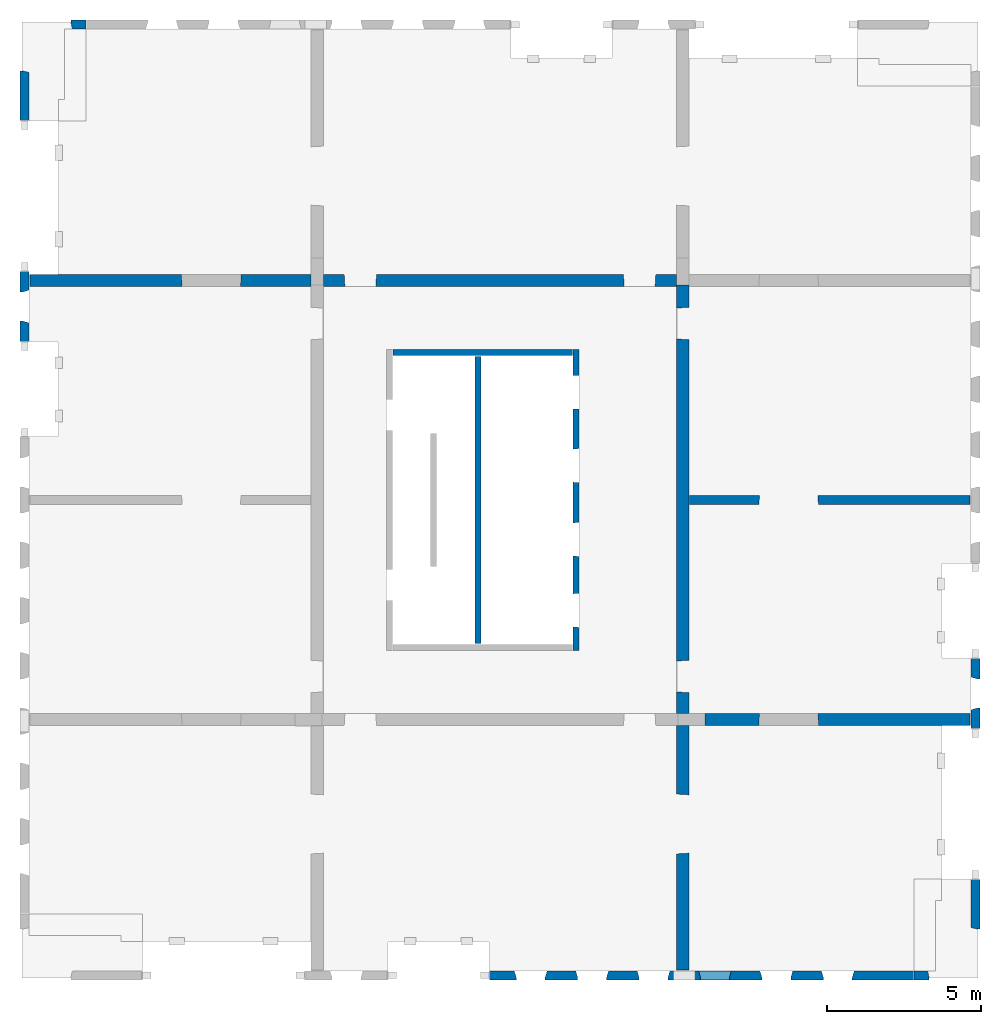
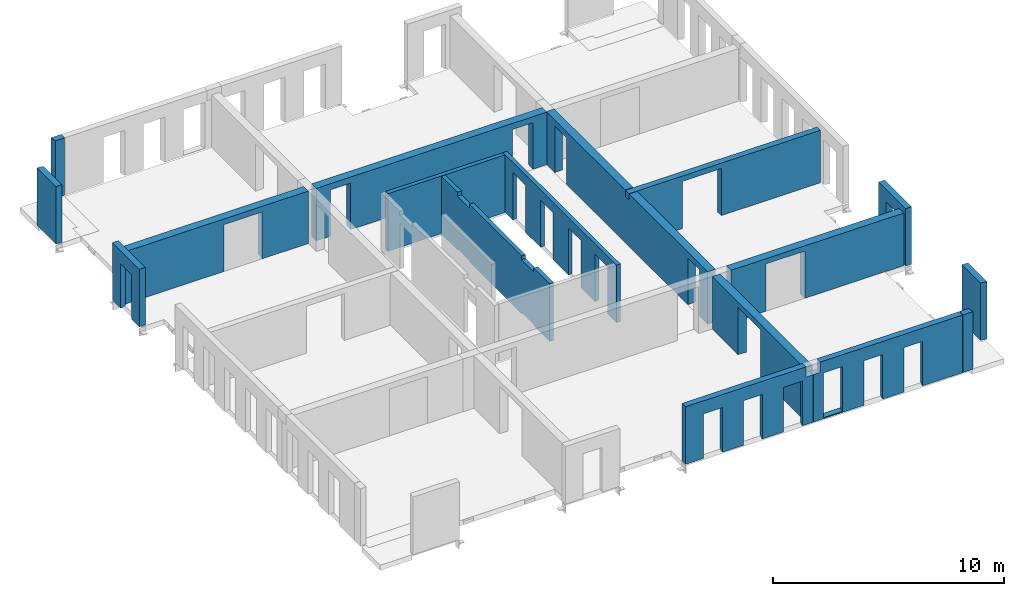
# One storey, part 3 of 4: 17 walls, 36 openings.
"""IFC2X3 building model written with IfcOpenShell, lengths in millimetres."""

from ifc_helpers import new_model, entity, si_unit, converted_unit, derived_unit, direction, frame, frame_2d, origin, origin_2d_with_axis, place, context, subcontext, project, spatial, rectangle, extrude, faceted_brep, material, layer, layer_set, layer_usage, type_object, element, save


model = new_model("IFC2X3")

# Units and contexts
model_context = context("Model", 3, precision=0.01, world=origin(), true_north=direction((6.12303176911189e-17, 1.0)))
body_context = subcontext(model_context, "Body", "Model", "MODEL_VIEW")
ifc_project = project(units=[si_unit("LENGTHUNIT", "METRE", prefix="MILLI"), si_unit("AREAUNIT", "SQUARE_METRE"), si_unit("VOLUMEUNIT", "CUBIC_METRE"), converted_unit("PLANEANGLEUNIT", "DEGREE", entity("IfcRatioMeasure", 0.0174532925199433), si_unit("PLANEANGLEUNIT", "RADIAN"), dimensions=[0, 0, 0, 0, 0, 0, 0]), si_unit("MASSUNIT", "GRAM", prefix="KILO"), derived_unit("MASSDENSITYUNIT", [(si_unit("MASSUNIT", "GRAM", prefix="KILO"), 1), (si_unit("LENGTHUNIT", "METRE"), -3)]), si_unit("TIMEUNIT", "SECOND"), si_unit("FREQUENCYUNIT", "HERTZ"), si_unit("THERMODYNAMICTEMPERATUREUNIT", "DEGREE_CELSIUS"), derived_unit("THERMALTRANSMITTANCEUNIT", [(si_unit("MASSUNIT", "GRAM", prefix="KILO"), 1), (si_unit("THERMODYNAMICTEMPERATUREUNIT", "KELVIN"), -1), (si_unit("TIMEUNIT", "SECOND"), -3)]), derived_unit("VOLUMETRICFLOWRATEUNIT", [(si_unit("LENGTHUNIT", "METRE"), 3), (si_unit("TIMEUNIT", "SECOND"), -1)]), si_unit("ELECTRICCURRENTUNIT", "AMPERE"), si_unit("ELECTRICVOLTAGEUNIT", "VOLT"), si_unit("POWERUNIT", "WATT"), si_unit("FORCEUNIT", "NEWTON", prefix="KILO"), si_unit("ILLUMINANCEUNIT", "LUX"), si_unit("LUMINOUSFLUXUNIT", "LUMEN"), si_unit("LUMINOUSINTENSITYUNIT", "CANDELA"), derived_unit("USERDEFINED", [(si_unit("MASSUNIT", "GRAM", prefix="KILO"), -1), (si_unit("LENGTHUNIT", "METRE"), -2), (si_unit("TIMEUNIT", "SECOND"), 3), (si_unit("LUMINOUSFLUXUNIT", "LUMEN"), 1)]), derived_unit("LINEARVELOCITYUNIT", [(si_unit("LENGTHUNIT", "METRE"), 1), (si_unit("TIMEUNIT", "SECOND"), -1)]), si_unit("PRESSUREUNIT", "PASCAL"), derived_unit("USERDEFINED", [(si_unit("LENGTHUNIT", "METRE"), -2), (si_unit("MASSUNIT", "GRAM", prefix="KILO"), 1), (si_unit("TIMEUNIT", "SECOND"), -2)])], contexts=[model_context])

# Site, building, storey
site_placement = place(None, origin())
site = spatial("IfcSite", under=ifc_project, at=site_placement, Name="Default", CompositionType="ELEMENT")
building_placement = place(site_placement, origin())
building = spatial("IfcBuilding", under=site, at=building_placement, Name="niet gebruiken", CompositionType="ELEMENT")
storey_placement = place(building_placement, frame((0.0, 0.0, 97560.0)))
storey = spatial("IfcBuildingStorey", under=building, at=storey_placement, Name="31 eenendertigste verdieping", CompositionType="ELEMENT", Elevation=97560.0000000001)

# Wall, openings
ifc_material = material(Name="NLRS_f2_beton prefab")
ifc_layer_1 = layer(ifc_material, 200.0)
ifc_layer_set_1 = layer_set([ifc_layer_1], Name="Basic Wall:NLRS_22.21_WA_beton prefab d=200_gen")
ifc_layer_usage_1 = layer_usage(ifc_layer_set_1, "AXIS2", "NEGATIVE", 100.0)
wall_type_1 = type_object("IfcWallType", Name="Basic Wall:NLRS_22.21_WA_beton prefab d=200_gen", PredefinedType="STANDARD", material=ifc_layer_set_1)
wall_1_placement = place(storey_placement, frame((144230.0, 22400.0, -50.0), z_axis=(0.0, 0.0, 1.0), x_axis=(0.0, -1.0, 0.0)))
wall_1 = element("IfcWallStandardCase", 1, at=wall_1_placement, inside=storey, type_object=wall_type_1, material=ifc_layer_usage_1, Name="Basic Wall:NLRS_22.21_WA_beton prefab d=200_gen", ObjectType="Basic Wall:NLRS_22.21_WA_beton prefab d=200_gen", context=body_context, shape_type="SweptSolid", body=[
    extrude(rectangle(XDim=9800.0, YDim=199.999999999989, at=frame_2d((4900.0, -3.69482222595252e-13), x_axis=(-1.0, 0.0))), origin(), (0.0, 0.0, 1.0), 3040.0),
])
opening_1_placement = place(wall_1_placement, frame((9047.0, -100.0, 0.0)))
element("IfcOpeningElement", 2, at=opening_1_placement, cuts=wall_1, Name="Basic Wall:NLRS_22.21_WA_beton prefab d=200_gen", ObjectType="Opening", context=body_context, shape_type="Brep", body=[
    faceted_brep([(-1104.0, 200.0, 2502.0), (-1104.0, 200.0, 0.0), (-1092.0, 0.0, 0.0), (-1092.0, 0.0, 2490.0), (0.0, 200.0, 0.0), (-12.0, 0.0, 0.0), (-12.0, 0.0, 2490.0), (0.0, 200.0, 2502.0)], [[[0, 1, 2, 3]], [[1, 4, 5, 2]], [[6, 3, 2, 5]], [[7, 4, 1, 0]], [[7, 0, 3, 6]], [[4, 7, 6, 5]]]),
])
opening_2_placement = place(wall_1_placement, frame((6737.0, -100.0, 0.0)))
element("IfcOpeningElement", 3, at=opening_2_placement, cuts=wall_1, Name="Basic Wall:NLRS_22.21_WA_beton prefab d=200_gen", ObjectType="Opening", context=body_context, shape_type="Brep", body=[
    faceted_brep([(-1104.0, 200.0, 2502.0), (-1104.0, 200.0, 0.0), (-1092.0, 0.0, 0.0), (-1092.0, 0.0, 2490.0), (0.0, 200.0, 0.0), (-12.0, 0.0, 0.0), (-12.0, 0.0, 2490.0), (0.0, 200.0, 2502.0)], [[[0, 1, 2, 3]], [[1, 4, 5, 2]], [[6, 3, 2, 5]], [[7, 4, 1, 0]], [[7, 0, 3, 6]], [[4, 7, 6, 5]]]),
])
opening_3_placement = place(wall_1_placement, frame((4332.0, -100.0, 0.0)))
element("IfcOpeningElement", 4, at=opening_3_placement, cuts=wall_1, Name="Basic Wall:NLRS_22.21_WA_beton prefab d=200_gen", ObjectType="Opening", context=body_context, shape_type="Brep", body=[
    faceted_brep([(-1104.0, 200.0, 2502.0), (-1104.0, 200.0, 0.0), (-1092.0, 0.0, 0.0), (-1092.0, 0.0, 2490.0), (0.0, 200.0, 0.0), (-12.0, 0.0, 0.0), (-12.0, 0.0, 2490.0), (0.0, 200.0, 2502.0)], [[[0, 1, 2, 3]], [[1, 4, 5, 2]], [[6, 3, 2, 5]], [[7, 4, 1, 0]], [[7, 0, 3, 6]], [[4, 7, 6, 5]]]),
])
opening_4_placement = place(wall_1_placement, frame((1942.0, -100.0, 0.0)))
element("IfcOpeningElement", 5, at=opening_4_placement, cuts=wall_1, Name="Basic Wall:NLRS_22.21_WA_beton prefab d=200_gen", ObjectType="Opening", context=body_context, shape_type="Brep", body=[
    faceted_brep([(-1104.0, 200.0, 2502.0), (-1104.0, 200.0, 0.0), (-1092.0, 0.0, 0.0), (-1092.0, 0.0, 2490.0), (0.0, 200.0, 0.0), (-12.0, 0.0, 0.0), (-12.0, 0.0, 2490.0), (0.0, 200.0, 2502.0)], [[[0, 1, 2, 3]], [[1, 4, 5, 2]], [[6, 3, 2, 5]], [[7, 4, 1, 0]], [[7, 0, 3, 6]], [[4, 7, 6, 5]]]),
])

ifc_layer_usage_2 = layer_usage(ifc_layer_set_1, "AXIS2", "NEGATIVE", 100.0)
wall_2_placement = place(storey_placement, frame((141030.0, 22180.0, -50.0), z_axis=(0.0, 0.0, 1.0), x_axis=(0.0, -1.0, 0.0)))
wall_2 = element("IfcWallStandardCase", 6, at=wall_2_placement, inside=storey, type_object=wall_type_1, material=ifc_layer_usage_2, Name="Basic Wall:NLRS_22.21_WA_beton prefab d=200_gen", ObjectType="Basic Wall:NLRS_22.21_WA_beton prefab d=200_gen", context=body_context, shape_type="SweptSolid", body=[
    extrude(rectangle(XDim=9360.0, YDim=199.999999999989, at=frame_2d((4680.0, -2.8421709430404e-14), x_axis=(-1.0, 0.0))), origin(), (0.0, 0.0, 1.0), 3040.0),
])
opening_5_placement = place(wall_2_placement, origin())
element("IfcOpeningElement", 7, at=opening_5_placement, cuts=wall_2, Name="Basic Wall:NLRS_22.21_WA_beton prefab d=200_gen", ObjectType="Opening", context=body_context, shape_type="SweptSolid", body=[
    extrude(rectangle(XDim=70.0000000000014, YDim=1044.00000000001, at=frame_2d((-8.66506866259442e-12, 0.0), x_axis=(1.0, 0.0))), frame((7452.0, -100.0, 35.0), z_axis=(0.0, 1.0, 0.0), x_axis=(0.0, 0.0, -1.0)), (0.0, 0.0, 1.0), 199.999999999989),
])
opening_6_placement = place(wall_2_placement, origin())
element("IfcOpeningElement", 8, at=opening_6_placement, cuts=wall_2, Name="Basic Wall:NLRS_22.21_WA_beton prefab d=200_gen", ObjectType="Opening", context=body_context, shape_type="SweptSolid", body=[
    extrude(rectangle(XDim=70.0000000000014, YDim=1044.00000000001, at=frame_2d((-8.66506866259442e-12, 0.0), x_axis=(1.0, 0.0))), frame((1908.0, -100.0, 35.0), z_axis=(0.0, 1.0, 0.0), x_axis=(0.0, 0.0, -1.0)), (0.0, 0.0, 1.0), 199.999999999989),
])
opening_7_placement = place(wall_2_placement, origin())
element("IfcOpeningElement", 9, at=opening_7_placement, cuts=wall_2, Name="Basic Wall:NLRS_22.21_WA_beton prefab d=200_gen", ObjectType="Opening", context=body_context, shape_type="SweptSolid", body=[
    extrude(rectangle(XDim=200.000000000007, YDim=1044.00000000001, at=frame_2d((-8.66862137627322e-12, 0.0), x_axis=(1.0, 0.0))), frame((1908.0, -100.0, 2940.0), z_axis=(0.0, 1.0, 0.0), x_axis=(0.0, 0.0, -1.0)), (0.0, 0.0, 1.0), 199.999999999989),
])
opening_8_placement = place(wall_2_placement, origin())
element("IfcOpeningElement", 10, at=opening_8_placement, cuts=wall_2, Name="Basic Wall:NLRS_22.21_WA_beton prefab d=200_gen", ObjectType="Opening", context=body_context, shape_type="SweptSolid", body=[
    extrude(rectangle(XDim=200.000000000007, YDim=1044.00000000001, at=frame_2d((-8.66862137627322e-12, 0.0), x_axis=(1.0, 0.0))), frame((7452.0, -100.0, 2940.0), z_axis=(0.0, 1.0, 0.0), x_axis=(0.0, 0.0, -1.0)), (0.0, 0.0, 1.0), 199.999999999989),
])
opening_9_placement = place(wall_2_placement, origin())
element("IfcOpeningElement", 11, at=opening_9_placement, cuts=wall_2, Name="Basic Wall:NLRS_22.21_WA_beton prefab d=200_gen", ObjectType="Recess", context=body_context, shape_type="SweptSolid", body=[
    extrude(rectangle(XDim=399.999999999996, YDim=280.000000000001, at=frame_2d((-2.1600499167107e-12, -8.66862137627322e-12), x_axis=(0.0, 1.0))), frame((770.0, -60.0, 438.0), z_axis=(0.0, 1.0, 0.0), x_axis=(1.0, 0.0, 0.0)), (0.0, 0.0, 1.0), 159.999999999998),
])
opening_10_placement = place(wall_2_placement, origin())
element("IfcOpeningElement", 12, at=opening_10_placement, cuts=wall_2, Name="Basic Wall:NLRS_22.21_WA_beton prefab d=200_gen", ObjectType="Recess", context=body_context, shape_type="SweptSolid", body=[
    extrude(rectangle(XDim=399.999999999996, YDim=280.000000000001, at=frame_2d((-2.1600499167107e-12, -8.66862137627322e-12), x_axis=(0.0, 1.0))), frame((1570.0, -60.0, 438.0), z_axis=(0.0, 1.0, 0.0), x_axis=(1.0, 0.0, 0.0)), (0.0, 0.0, 1.0), 159.999999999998),
])
opening_11_placement = place(wall_2_placement, origin())
element("IfcOpeningElement", 13, at=opening_11_placement, cuts=wall_2, Name="Basic Wall:NLRS_22.21_WA_beton prefab d=200_gen", ObjectType="Recess", context=body_context, shape_type="SweptSolid", body=[
    extrude(rectangle(XDim=399.999999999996, YDim=279.999999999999, at=frame_2d((-1.08002495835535e-12, -8.66862137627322e-12), x_axis=(0.0, 1.0))), frame((3160.0, -60.0, 438.0), z_axis=(0.0, 1.0, 0.0), x_axis=(1.0, 0.0, 0.0)), (0.0, 0.0, 1.0), 159.999999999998),
])
opening_12_placement = place(wall_2_placement, origin())
element("IfcOpeningElement", 14, at=opening_12_placement, cuts=wall_2, Name="Basic Wall:NLRS_22.21_WA_beton prefab d=200_gen", ObjectType="Recess", context=body_context, shape_type="SweptSolid", body=[
    extrude(rectangle(XDim=399.999999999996, YDim=279.999999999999, at=frame_2d((1.08002495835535e-12, -8.66862137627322e-12), x_axis=(0.0, 1.0))), frame((3960.0, -60.0, 438.0), z_axis=(0.0, 1.0, 0.0), x_axis=(1.0, 0.0, 0.0)), (0.0, 0.0, 1.0), 159.999999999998),
])

# Wall
ifc_layer_usage_3 = layer_usage(ifc_layer_set_1, "AXIS2", "NEGATIVE", 100.0)
wall_3_placement = place(storey_placement, frame((138270.0, 22300.0, -50.0)))
element("IfcWallStandardCase", 15, at=wall_3_placement, inside=storey, type_object=wall_type_1, material=ifc_layer_usage_3, Name="Basic Wall:NLRS_22.21_WA_beton prefab d=200_gen", ObjectType="Basic Wall:NLRS_22.21_WA_beton prefab d=200_gen", context=body_context, shape_type="SweptSolid", body=[
    extrude(rectangle(XDim=5839.99999999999, YDim=199.999999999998, at=frame_2d((2919.99999999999, -7.60280727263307e-13), x_axis=(-1.0, 0.0))), origin(), (0.0, 0.0, 1.0), 3040.0),
])

# Wall, openings
ifc_layer_2 = layer(ifc_material, 300.0)
ifc_layer_set_2 = layer_set([ifc_layer_2], Name="Basic Wall:NLRS_22.21_WA_beton prefab d=300_gen")
ifc_layer_usage_4 = layer_usage(ifc_layer_set_2, "AXIS2", "NEGATIVE", 150.0)
wall_type_2 = type_object("IfcWallType", Name="Basic Wall:NLRS_22.21_WA_beton prefab d=300_gen", PredefinedType="STANDARD", material=ifc_layer_set_2)
wall_4_placement = place(storey_placement, frame((157060.0, 17500.0, -70.0), z_axis=(0.0, 0.0, 1.0), x_axis=(-1.0, 0.0, 0.0)))
wall_4 = element("IfcWallStandardCase", 16, at=wall_4_placement, inside=storey, type_object=wall_type_2, material=ifc_layer_usage_4, Name="Basic Wall:NLRS_22.21_WA_beton prefab d=300_gen", ObjectType="Basic Wall:NLRS_22.21_WA_beton prefab d=300_gen", context=body_context, shape_type="SweptSolid", body=[
    extrude(rectangle(XDim=9559.9999999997, YDim=300.000000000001, at=frame_2d((4779.99999999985, -1.84741111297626e-13), x_axis=(-1.0, 0.0))), origin(), (0.0, 0.0, 1.0), 2769.99999999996),
])
opening_13_placement = place(wall_4_placement, frame((6878.0, 150.0, 0.0)))
element("IfcOpeningElement", 17, at=opening_13_placement, cuts=wall_4, Name="Basic Wall:NLRS_22.21_WA_beton prefab d=300_gen", ObjectType="Opening", context=body_context, shape_type="Brep", body=[
    faceted_brep([(-18.0, -300.0, 2470.0), (-1918.0, -300.0, 2470.0), (-1918.0, -300.0, 0.0), (-18.0, -300.0, 0.0), (0.0, 0.0, 2488.0), (0.0, 0.0, 0.0), (-1936.0, 0.0, 0.0), (-1936.0, 0.0, 2488.0)], [[[0, 1, 2, 3]], [[4, 5, 6, 7]], [[4, 7, 1, 0]], [[7, 6, 2, 1]], [[6, 5, 3, 2]], [[5, 4, 0, 3]]]),
])
opening_14_placement = place(wall_4_placement, origin())
element("IfcOpeningElement", 18, at=opening_14_placement, cuts=wall_4, Name="Basic Wall:NLRS_22.21_WA_beton prefab d=300_gen", ObjectType="Opening", context=body_context, shape_type="SweptSolid", body=[
    extrude(rectangle(XDim=2439.99999999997, YDim=420.000000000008, at=frame_2d((0.0, 0.0), x_axis=(0.0, 1.0))), frame((9350.0, 150.0, 1220.0), z_axis=(0.0, -1.0, 0.0), x_axis=(1.0, 0.0, 0.0)), (0.0, 0.0, 1.0), 300.0),
])

# Wall, opening
ifc_layer_3 = layer(ifc_material, 400.0)
ifc_layer_set_3 = layer_set([ifc_layer_3], Name="Basic Wall:NLRS_22.21_WA_beton prefab d=400_gen")
ifc_layer_usage_5 = layer_usage(ifc_layer_set_3, "AXIS2", "NEGATIVE", 200.0)
wall_type_3 = type_object("IfcWallType", Name="Basic Wall:NLRS_22.21_WA_beton prefab d=400_gen", PredefinedType="STANDARD", material=ifc_layer_set_3)
wall_5_placement = place(storey_placement, frame((147700.0, 10150.0, -70.0), z_axis=(0.0, 0.0, 1.0), x_axis=(0.0, -1.0, 0.0)))
wall_5 = element("IfcWallStandardCase", 19, at=wall_5_placement, inside=storey, type_object=wall_type_3, material=ifc_layer_usage_5, Name="Basic Wall:NLRS_22.21_WA_beton prefab d=400_gen", ObjectType="Basic Wall:NLRS_22.21_WA_beton prefab d=400_gen", context=body_context, shape_type="SweptSolid", body=[
    extrude(rectangle(XDim=7960.00000000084, YDim=400.000000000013, at=frame_2d((3980.00000000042, -7.105427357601e-14), x_axis=(-1.0, 0.0))), origin(), (0.0, 0.0, 1.0), 2770.00000000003),
])
opening_15_placement = place(wall_5_placement, frame((4174.0, -200.0, 0.0)))
element("IfcOpeningElement", 20, at=opening_15_placement, cuts=wall_5, Name="Basic Wall:NLRS_22.21_WA_beton prefab d=400_gen", ObjectType="Opening", context=body_context, shape_type="Brep", body=[
    faceted_brep([(-24.0, 400.0, 2470.0), (-24.0, 400.0, 0.0), (-1924.0, 400.0, 0.0), (-1924.0, 400.0, 2470.0), (0.0, 0.0, 2494.0), (-1948.0, 0.0, 2494.0), (-1948.0, 0.0, 0.0), (0.0, 0.0, 0.0)], [[[0, 1, 2, 3]], [[4, 5, 6, 7]], [[4, 0, 3, 5]], [[5, 3, 2, 6]], [[6, 2, 1, 7]], [[7, 1, 0, 4]]]),
])

ifc_layer_usage_6 = layer_usage(ifc_layer_set_3, "AXIS2", "NEGATIVE", 200.0)
wall_6_placement = place(storey_placement, frame((135600.0, 24650.0, -70.0), z_axis=(0.0, 0.0, 1.0), x_axis=(-1.0, 0.0, 0.0)))
wall_6 = element("IfcWallStandardCase", 21, at=wall_6_placement, inside=storey, type_object=wall_type_3, material=ifc_layer_usage_6, Name="Basic Wall:NLRS_22.21_WA_beton prefab d=400_gen", ObjectType="Basic Wall:NLRS_22.21_WA_beton prefab d=400_gen", context=body_context, shape_type="SweptSolid", body=[
    extrude(rectangle(XDim=9159.99999999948, YDim=399.999999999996, at=frame_2d((4579.99999999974, -1.36424205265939e-12), x_axis=(-1.0, 0.0))), origin(), (0.0, 0.0, 1.0), 2770.00000000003),
])
opening_16_placement = place(wall_6_placement, frame((4224.0, 200.0, 0.0)))
element("IfcOpeningElement", 22, at=opening_16_placement, cuts=wall_6, Name="Basic Wall:NLRS_22.21_WA_beton prefab d=400_gen", ObjectType="Opening", context=body_context, shape_type="Brep", body=[
    faceted_brep([(-1924.0, 0.0, 2470.0), (-24.0, 0.0, 2470.0), (-24.0, 0.0, 0.0), (-1924.0, 0.0, 0.0), (-1948.0, -400.0, 2494.0), (-1948.0, -400.0, 0.0), (0.0, -400.0, 0.0), (0.0, -400.0, 2494.0)], [[[0, 1, 2, 3]], [[4, 5, 6, 7]], [[4, 7, 1, 0]], [[7, 6, 2, 1]], [[6, 5, 3, 2]], [[5, 4, 0, 3]]]),
])

ifc_layer_usage_7 = layer_usage(ifc_layer_set_3, "AXIS2", "NEGATIVE", 200.0)
wall_7_placement = place(storey_placement, frame((148430.0, 10350.0, -70.0)))
wall_7 = element("IfcWallStandardCase", 23, at=wall_7_placement, inside=storey, type_object=wall_type_3, material=ifc_layer_usage_7, Name="Basic Wall:NLRS_22.21_WA_beton prefab d=400_gen", ObjectType="Basic Wall:NLRS_22.21_WA_beton prefab d=400_gen", context=body_context, shape_type="SweptSolid", body=[
    extrude(rectangle(XDim=8630.00000000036, YDim=400.0, at=frame_2d((4315.00000000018, 0.0), x_axis=(-1.0, 0.0))), origin(), (0.0, 0.0, 1.0), 2770.00000000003),
])
opening_17_placement = place(wall_7_placement, frame((1746.0, -200.0, 0.0)))
element("IfcOpeningElement", 24, at=opening_17_placement, cuts=wall_7, Name="Basic Wall:NLRS_22.21_WA_beton prefab d=400_gen", ObjectType="Opening", context=body_context, shape_type="Brep", body=[
    faceted_brep([(24.0, 400.0, 2470.0), (1924.0, 400.0, 2470.0), (1924.0, 400.0, 0.0), (24.0, 400.0, 0.0), (0.0, 0.0, 2494.0), (0.0, 0.0, 0.0), (1948.0, 0.0, 0.0), (1948.0, 0.0, 2494.0)], [[[0, 1, 2, 3]], [[4, 5, 6, 7]], [[4, 7, 1, 0]], [[7, 6, 2, 1]], [[6, 5, 3, 2]], [[5, 4, 0, 3]]]),
])

# Wall, openings
ifc_layer_usage_8 = layer_usage(ifc_layer_set_3, "AXIS2", "NEGATIVE", 200.0)
wall_8_placement = place(storey_placement, frame((147700.0, 24500.0, -70.0), z_axis=(0.0, 0.0, 1.0), x_axis=(0.0, -1.0, 0.0)))
wall_8 = element("IfcWallStandardCase", 25, at=wall_8_placement, inside=storey, type_object=wall_type_3, material=ifc_layer_usage_8, Name="Basic Wall:NLRS_22.21_WA_beton prefab d=400_gen", ObjectType="Basic Wall:NLRS_22.21_WA_beton prefab d=400_gen", context=body_context, shape_type="SweptSolid", body=[
    extrude(rectangle(XDim=13949.9999999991, YDim=400.000000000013, at=frame_2d((6974.99999999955, 2.8421709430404e-14), x_axis=(-1.0, 0.0))), origin(), (0.0, 0.0, 1.0), 2770.00000000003),
])
opening_18_placement = place(wall_8_placement, frame((13274.0, -200.0, 0.0)))
element("IfcOpeningElement", 26, at=opening_18_placement, cuts=wall_8, Name="Basic Wall:NLRS_22.21_WA_beton prefab d=400_gen", ObjectType="Opening", context=body_context, shape_type="Brep", body=[
    faceted_brep([(-1054.0, 400.0, 2472.0), (-1054.0, 400.0, 0.0), (-1030.0, 0.0, 0.0), (-1030.0, 0.0, 2448.0), (0.0, 400.0, 0.0), (-24.0, 0.0, 0.0), (-24.0, 0.0, 2448.0), (0.0, 400.0, 2472.0)], [[[0, 1, 2, 3]], [[1, 4, 5, 2]], [[6, 3, 2, 5]], [[7, 4, 1, 0]], [[7, 0, 3, 6]], [[4, 7, 6, 5]]]),
])
opening_19_placement = place(wall_8_placement, frame((1780.0, -200.0, 0.0)))
element("IfcOpeningElement", 27, at=opening_19_placement, cuts=wall_8, Name="Basic Wall:NLRS_22.21_WA_beton prefab d=400_gen", ObjectType="Opening", context=body_context, shape_type="Brep", body=[
    faceted_brep([(-1054.0, 400.0, 2472.0), (-1054.0, 400.0, 0.0), (-1030.0, 0.0, 0.0), (-1030.0, 0.0, 2448.0), (0.0, 400.0, 0.0), (-24.0, 0.0, 0.0), (-24.0, 0.0, 2448.0), (0.0, 400.0, 2472.0)], [[[0, 1, 2, 3]], [[1, 4, 5, 2]], [[6, 3, 2, 5]], [[7, 4, 1, 0]], [[7, 0, 3, 6]], [[4, 7, 6, 5]]]),
])
opening_20_placement = place(wall_8_placement, origin())
element("IfcOpeningElement", 28, at=opening_20_placement, cuts=wall_8, Name="Basic Wall:NLRS_22.21_WA_beton prefab d=400_gen", ObjectType="Opening", context=body_context, shape_type="SweptSolid", body=[
    extrude(rectangle(XDim=350.000000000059, YDim=339.999999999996, at=frame_2d((0.0, 0.0), x_axis=(0.0, 1.0))), frame((7000.0, 200.0, 2595.0), z_axis=(0.0, -1.0, 0.0), x_axis=(-1.0, 0.0, 0.0)), (0.0, 0.0, 1.0), 400.0),
])

ifc_layer_usage_9 = layer_usage(ifc_layer_set_3, "AXIS2", "NEGATIVE", 200.0)
wall_9_placement = place(storey_placement, frame((136000.0, 24650.0, -70.0)))
wall_9 = element("IfcWallStandardCase", 29, at=wall_9_placement, inside=storey, type_object=wall_type_3, material=ifc_layer_usage_9, Name="Basic Wall:NLRS_22.21_WA_beton prefab d=400_gen", ObjectType="Basic Wall:NLRS_22.21_WA_beton prefab d=400_gen", context=body_context, shape_type="SweptSolid", body=[
    extrude(rectangle(XDim=11500.0, YDim=400.000000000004, at=frame_2d((5750.0, -1.09423581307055e-12), x_axis=(-1.0, 0.0))), origin(), (0.0, 0.0, 1.0), 2770.00000000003),
])
opening_21_placement = place(wall_9_placement, frame((676.0, -200.0, 0.0)))
element("IfcOpeningElement", 30, at=opening_21_placement, cuts=wall_9, Name="Basic Wall:NLRS_22.21_WA_beton prefab d=400_gen", ObjectType="Opening", context=body_context, shape_type="Brep", body=[
    faceted_brep([(0.0, 400.0, 2472.0), (0.0, 400.0, 0.0), (24.0, 0.0, 0.0), (24.0, 0.0, 2448.0), (1054.0, 400.0, 0.0), (1030.0, 0.0, 0.0), (1030.0, 0.0, 2448.0), (1054.0, 400.0, 2472.0)], [[[0, 1, 2, 3]], [[1, 4, 5, 2]], [[6, 3, 2, 5]], [[7, 4, 1, 0]], [[7, 0, 3, 6]], [[4, 7, 6, 5]]]),
])
opening_22_placement = place(wall_9_placement, frame((9770.0, -200.0, 0.0)))
element("IfcOpeningElement", 31, at=opening_22_placement, cuts=wall_9, Name="Basic Wall:NLRS_22.21_WA_beton prefab d=400_gen", ObjectType="Opening", context=body_context, shape_type="Brep", body=[
    faceted_brep([(0.0, 400.0, 2472.0), (0.0, 400.0, 0.0), (24.0, 0.0, 0.0), (24.0, 0.0, 2448.0), (1054.0, 400.0, 0.0), (1030.0, 0.0, 0.0), (1030.0, 0.0, 2448.0), (1054.0, 400.0, 2472.0)], [[[0, 1, 2, 3]], [[1, 4, 5, 2]], [[6, 3, 2, 5]], [[7, 4, 1, 0]], [[7, 0, 3, 6]], [[4, 7, 6, 5]]]),
])

# Wall, opening
ifc_layer_4 = layer(ifc_material, 300.0)
ifc_layer_set_4 = layer_set([ifc_layer_4], Name="Basic Wall:NLRS_21.21_WA_beton prefab d=300/320_gen")
ifc_layer_usage_10 = layer_usage(ifc_layer_set_4, "AXIS2", "NEGATIVE", 150.0)
wall_type_4 = type_object("IfcWallType", Name="Basic Wall:NLRS_21.21_WA_beton prefab d=300/320_gen", PredefinedType="STANDARD", material=ifc_layer_set_4)
wall_10_placement = place(storey_placement, frame((157230.0, 12360.0, -50.0), z_axis=(0.0, 0.0, 1.0), x_axis=(0.0, -1.0, 0.0)))
wall_10 = element("IfcWallStandardCase", 32, at=wall_10_placement, inside=storey, type_object=wall_type_4, material=ifc_layer_usage_10, Name="Basic Wall:NLRS_21.21_WA_beton prefab d=300/320_gen", ObjectType="Basic Wall:NLRS_21.21_WA_beton prefab d=300/320_gen", context=body_context, shape_type="SweptSolid", body=[
    extrude(rectangle(XDim=2320.00000000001, YDim=300.000000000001, at=frame_2d((1160.0, -8.38440428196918e-12), x_axis=(-1.0, 0.0))), origin(), (0.0, 0.0, 1.0), 3040.0),
])
opening_23_placement = place(wall_10_placement, frame((1695.0, -150.0, -20.0)))
element("IfcOpeningElement", 33, at=opening_23_placement, cuts=wall_10, Name="Basic Wall:NLRS_21.21_WA_beton prefab d=300/320_gen", ObjectType="Opening", context=body_context, shape_type="Brep", body=[
    faceted_brep([(-1070.0, 0.0, 2405.0), (-1070.0, 0.0, 0.0), (0.0, 0.0, 0.0), (0.0, 0.0, 2405.0), (-65.0, 219.0, 2370.0), (-1005.0, 219.0, 2370.0), (-65.0, 219.0, 0.0), (-1005.0, 219.0, 0.0), (-1005.0, 300.0, 0.0), (-65.0, 300.0, 0.0), (-1005.0, 300.0, 2370.0), (-65.0, 300.0, 2370.0)], [[[0, 1, 2, 3]], [[3, 4, 5, 0]], [[2, 6, 4, 3]], [[1, 7, 8, 9, 6, 2]], [[0, 5, 7, 1]], [[10, 11, 9, 8]], [[10, 5, 4, 11]], [[11, 4, 6, 9]], [[8, 7, 5, 10]]]),
])

ifc_layer_usage_11 = layer_usage(ifc_layer_set_4, "AXIS2", "NEGATIVE", 150.0)
wall_11_placement = place(storey_placement, frame((126270.0, 22640.0, -50.0), z_axis=(0.0, 0.0, 1.0), x_axis=(0.0, 1.0, 0.0)))
wall_11 = element("IfcWallStandardCase", 34, at=wall_11_placement, inside=storey, type_object=wall_type_4, material=ifc_layer_usage_11, Name="Basic Wall:NLRS_21.21_WA_beton prefab d=300/320_gen", ObjectType="Basic Wall:NLRS_21.21_WA_beton prefab d=300/320_gen", context=body_context, shape_type="SweptSolid", body=[
    extrude(rectangle(XDim=2320.0, YDim=300.000000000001, at=frame_2d((1160.0, -3.60955709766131e-12), x_axis=(-1.0, 0.0))), origin(), (0.0, 0.0, 1.0), 3040.0),
])
opening_24_placement = place(wall_11_placement, frame((625.0, 150.0, -20.0)))
element("IfcOpeningElement", 35, at=opening_24_placement, cuts=wall_11, Name="Basic Wall:NLRS_21.21_WA_beton prefab d=300/320_gen", ObjectType="Opening", context=body_context, shape_type="Brep", body=[
    faceted_brep([(0.0, -300.0, 2405.0), (0.0, -300.0, 0.0), (1070.0, -300.0, 0.0), (1070.0, -300.0, 2405.0), (1005.0, -81.0, 2370.0), (65.0, -81.0, 2370.0), (1005.0, -81.0, 0.0), (65.0, -81.0, 0.0), (65.0, 0.0, 0.0), (1005.0, 0.0, 0.0), (65.0, 0.0, 2370.0), (1005.0, 0.0, 2370.0)], [[[0, 1, 2, 3]], [[3, 4, 5, 0]], [[2, 6, 4, 3]], [[1, 7, 8, 9, 6, 2]], [[0, 5, 7, 1]], [[10, 11, 9, 8]], [[10, 5, 4, 11]], [[11, 4, 6, 9]], [[8, 7, 5, 10]]]),
])

# Wall, openings
ifc_layer_usage_12 = layer_usage(ifc_layer_set_4, "AXIS2", "NEGATIVE", 150.0)
wall_12_placement = place(storey_placement, frame((155210.0, 2020.0, -50.0), z_axis=(0.0, 0.0, 1.0), x_axis=(-1.0, 0.0, 0.0)))
wall_12 = element("IfcWallStandardCase", 36, at=wall_12_placement, inside=storey, type_object=wall_type_4, material=ifc_layer_usage_12, Name="Basic Wall:NLRS_21.21_WA_beton prefab d=300/320_gen", ObjectType="Basic Wall:NLRS_21.21_WA_beton prefab d=300/320_gen", context=body_context, shape_type="SweptSolid", body=[
    extrude(rectangle(XDim=7449.99999999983, YDim=300.0, at=frame_2d((3724.99999999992, 5.6843418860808e-14), x_axis=(-1.0, 0.0))), origin(), (0.0, 0.0, 1.0), 3040.0),
])
opening_25_placement = place(wall_12_placement, frame((4995.0, 150.0, -20.0)))
element("IfcOpeningElement", 37, at=opening_25_placement, cuts=wall_12, Name="Basic Wall:NLRS_21.21_WA_beton prefab d=300/320_gen", ObjectType="Opening", context=body_context, shape_type="Brep", body=[
    faceted_brep([(0.0, -300.0, 2405.0), (-1070.0, -300.0, 2405.0), (-1070.0, -300.0, 0.0), (0.0, -300.0, 0.0), (-65.0, -81.0, 2370.0), (-1005.0, -81.0, 2370.0), (-1005.0, -81.0, 0.0), (-1005.0, 0.0, 0.0), (-65.0, 0.0, 0.0), (-65.0, -81.0, 0.0), (-65.0, 0.0, 2370.0), (-1005.0, 0.0, 2370.0)], [[[0, 1, 2, 3]], [[1, 0, 4, 5]], [[2, 1, 5, 6]], [[3, 2, 6, 7, 8, 9]], [[0, 3, 9, 4]], [[10, 8, 7, 11]], [[10, 11, 5, 4]], [[11, 7, 6, 5]], [[8, 10, 4, 9]]]),
])
opening_26_placement = place(wall_12_placement, frame((2995.0, 150.0, -20.0)))
element("IfcOpeningElement", 38, at=opening_26_placement, cuts=wall_12, Name="Basic Wall:NLRS_21.21_WA_beton prefab d=300/320_gen", ObjectType="Opening", context=body_context, shape_type="Brep", body=[
    faceted_brep([(0.0, -300.0, 2405.0), (-1070.0, -300.0, 2405.0), (-1070.0, -300.0, 0.0), (0.0, -300.0, 0.0), (-65.0, -81.0, 2370.0), (-1005.0, -81.0, 2370.0), (-1005.0, -81.0, 0.0), (-1005.0, 0.0, 0.0), (-65.0, 0.0, 0.0), (-65.0, -81.0, 0.0), (-65.0, 0.0, 2370.0), (-1005.0, 0.0, 2370.0)], [[[0, 1, 2, 3]], [[1, 0, 4, 5]], [[2, 1, 5, 6]], [[3, 2, 6, 7, 8, 9]], [[0, 3, 9, 4]], [[10, 8, 7, 11]], [[10, 11, 5, 4]], [[11, 7, 6, 5]], [[8, 10, 4, 9]]]),
])
opening_27_placement = place(wall_12_placement, frame((6995.0, 150.0, 50.0)))
element("IfcOpeningElement", 39, at=opening_27_placement, cuts=wall_12, Name="Basic Wall:NLRS_21.21_WA_beton prefab d=300/320_gen", ObjectType="Opening", context=body_context, shape_type="Brep", body=[
    faceted_brep([(0.0, -300.0, 2405.0), (-1070.0, -300.0, 2405.0), (-1070.0, -300.0, 0.0), (0.0, -300.0, 0.0), (-65.0, -81.0, 2370.0), (-1005.0, -81.0, 2370.0), (-1005.0, -81.0, 0.0), (-1005.0, 0.0, 0.0), (-65.0, 0.0, 0.0), (-65.0, -81.0, 0.0), (-65.0, 0.0, 2370.0), (-1005.0, 0.0, 2370.0)], [[[0, 1, 2, 3]], [[1, 0, 4, 5]], [[2, 1, 5, 6]], [[3, 2, 6, 7, 8, 9]], [[0, 3, 9, 4]], [[10, 8, 7, 11]], [[10, 11, 5, 4]], [[11, 7, 6, 5]], [[8, 10, 4, 9]]]),
])
opening_28_placement = place(wall_12_placement, origin())
element("IfcOpeningElement", 40, at=opening_28_placement, cuts=wall_12, Name="Basic Wall:NLRS_21.21_WA_beton prefab d=300/320_gen", ObjectType="Opening", context=body_context, shape_type="SweptSolid", body=[
    extrude(rectangle(XDim=535.0, YDim=344.999999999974, at=origin_2d_with_axis()), frame((7277.49999999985, 150.0, 2772.5), z_axis=(0.0, -1.0, 0.0), x_axis=(0.0, 0.0, 1.0)), (0.0, 0.0, 1.0), 300.0),
])

# Wall, opening
ifc_layer_usage_13 = layer_usage(ifc_layer_set_4, "AXIS2", "NEGATIVE", 150.0)
wall_13_placement = place(storey_placement, frame((127780.0, 32980.0, -50.0)))
wall_13 = element("IfcWallStandardCase", 41, at=wall_13_placement, inside=storey, type_object=wall_type_4, material=ifc_layer_usage_13, Name="Basic Wall:NLRS_21.21_WA_beton prefab d=300/320_gen", ObjectType="Basic Wall:NLRS_21.21_WA_beton prefab d=300/320_gen", context=body_context, shape_type="SweptSolid", body=[
    extrude(rectangle(XDim=489.999999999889, YDim=300.000000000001, at=frame_2d((244.999999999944, -6.67910171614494e-13), x_axis=(-1.0, 0.0))), origin(), (0.0, 0.0, 1.0), 3040.0),
])
opening_29_placement = place(wall_13_placement, frame((0.0, -250.0, 0.0)))
element("IfcOpeningElement", 42, at=opening_29_placement, cuts=wall_13, Name="Basic Wall:NLRS_21.21_WA_beton prefab d=300/320_gen", ObjectType="Opening", context=body_context, shape_type="Brep", body=[
    faceted_brep([(0.0, 0.0, 3040.0), (65.0, 0.0, 3040.0), (0.0, 319.0, 3040.0), (0.0, 0.0, 0.0), (0.0, 319.0, 0.0), (65.0, 0.0, 0.0)], [[[0, 1, 2]], [[3, 4, 5]], [[1, 0, 3, 5]], [[0, 2, 4, 3]], [[2, 1, 5, 4]]]),
])

ifc_layer_usage_14 = layer_usage(ifc_layer_set_4, "AXIS2", "NEGATIVE", 150.0)
wall_14_placement = place(storey_placement, frame((126270.0, 29840.0, -50.0), z_axis=(0.0, 0.0, 1.0), x_axis=(0.0, 1.0, 0.0)))
wall_14 = element("IfcWallStandardCase", 43, at=wall_14_placement, inside=storey, type_object=wall_type_4, material=ifc_layer_usage_14, Name="Basic Wall:NLRS_21.21_WA_beton prefab d=300/320_gen", ObjectType="Basic Wall:NLRS_21.21_WA_beton prefab d=300/320_gen", context=body_context, shape_type="SweptSolid", body=[
    extrude(rectangle(XDim=1629.99999999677, YDim=300.000000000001, at=frame_2d((814.999999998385, 8.95283847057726e-13), x_axis=(-1.0, 0.0))), origin(), (0.0, 0.0, 1.0), 3040.0),
])
opening_30_placement = place(wall_14_placement, frame((1565.0, 69.0, 0.0)))
element("IfcOpeningElement", 44, at=opening_30_placement, cuts=wall_14, Name="Basic Wall:NLRS_21.21_WA_beton prefab d=300/320_gen", ObjectType="Opening", context=body_context, shape_type="Brep", body=[
    faceted_brep([(65.0, -319.0, 3040.0), (65.0, 0.0, 3040.0), (0.0, -319.0, 3040.0), (65.0, -319.0, 0.0), (0.0, -319.0, 0.0), (65.0, 0.0, 0.0)], [[[0, 1, 2]], [[3, 4, 5]], [[2, 4, 3, 0]], [[0, 3, 5, 1]], [[1, 5, 4, 2]]]),
])

ifc_layer_usage_15 = layer_usage(ifc_layer_set_4, "AXIS2", "NEGATIVE", 150.0)
wall_15_placement = place(storey_placement, frame((155720.0, 2020.0, -50.0), z_axis=(0.0, 0.0, 1.0), x_axis=(-1.0, 0.0, 0.0)))
wall_15 = element("IfcWallStandardCase", 45, at=wall_15_placement, inside=storey, type_object=wall_type_4, material=ifc_layer_usage_15, Name="Basic Wall:NLRS_21.21_WA_beton prefab d=300/320_gen", ObjectType="Basic Wall:NLRS_21.21_WA_beton prefab d=300/320_gen", context=body_context, shape_type="SweptSolid", body=[
    extrude(rectangle(XDim=489.999999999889, YDim=300.0, at=frame_2d((244.999999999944, 4.2632564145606e-14), x_axis=(-1.0, 0.0))), origin(), (0.0, 0.0, 1.0), 3040.0),
])
opening_31_placement = place(wall_15_placement, frame((65.0, 69.0, 0.0)))
element("IfcOpeningElement", 46, at=opening_31_placement, cuts=wall_15, Name="Basic Wall:NLRS_21.21_WA_beton prefab d=300/320_gen", ObjectType="Opening", context=body_context, shape_type="Brep", body=[
    faceted_brep([(-65.0, -319.0, 3040.0), (0.0, -319.0, 3040.0), (-65.0, 0.0, 3040.0), (-65.0, -319.0, 0.0), (-65.0, 0.0, 0.0), (0.0, -319.0, 0.0)], [[[0, 1, 2]], [[3, 4, 5]], [[1, 0, 3, 5]], [[0, 2, 4, 3]], [[2, 1, 5, 4]]]),
])

ifc_layer_usage_16 = layer_usage(ifc_layer_set_4, "AXIS2", "NEGATIVE", 150.0)
wall_16_placement = place(storey_placement, frame((157230.0, 5160.0, -50.0), z_axis=(0.0, 0.0, 1.0), x_axis=(0.0, -1.0, 0.0)))
wall_16 = element("IfcWallStandardCase", 47, at=wall_16_placement, inside=storey, type_object=wall_type_4, material=ifc_layer_usage_16, Name="Basic Wall:NLRS_21.21_WA_beton prefab d=300/320_gen", ObjectType="Basic Wall:NLRS_21.21_WA_beton prefab d=300/320_gen", context=body_context, shape_type="SweptSolid", body=[
    extrude(rectangle(XDim=1629.99999999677, YDim=300.000000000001, at=frame_2d((814.999999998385, 4.76063632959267e-12), x_axis=(-1.0, 0.0))), origin(), (0.0, 0.0, 1.0), 3040.0),
])
opening_32_placement = place(wall_16_placement, frame((1630.0, -250.0, 0.0)))
element("IfcOpeningElement", 48, at=opening_32_placement, cuts=wall_16, Name="Basic Wall:NLRS_21.21_WA_beton prefab d=300/320_gen", ObjectType="Opening", context=body_context, shape_type="Brep", body=[
    faceted_brep([(0.0, 0.0, 3040.0), (0.0, 319.0, 3040.0), (-65.0, 0.0, 3040.0), (0.0, 0.0, 0.0), (-65.0, 0.0, 0.0), (0.0, 319.0, 0.0)], [[[0, 1, 2]], [[3, 4, 5]], [[2, 4, 3, 0]], [[0, 3, 5, 1]], [[1, 5, 4, 2]]]),
])

# Wall, openings
ifc_layer_usage_17 = layer_usage(ifc_layer_set_4, "AXIS2", "NEGATIVE", 150.0)
wall_17_placement = place(storey_placement, frame((147740.0, 2020.0, -50.0), z_axis=(0.0, 0.0, 1.0), x_axis=(-1.0, 0.0, 0.0)))
wall_17 = element("IfcWallStandardCase", 49, at=wall_17_placement, inside=storey, type_object=wall_type_4, material=ifc_layer_usage_17, Name="Basic Wall:NLRS_21.21_WA_beton prefab d=300/320_gen", ObjectType="Basic Wall:NLRS_21.21_WA_beton prefab d=300/320_gen", context=body_context, shape_type="SweptSolid", body=[
    extrude(rectangle(XDim=6350.00000000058, YDim=300.0, at=frame_2d((3175.00000000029, -4.2632564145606e-14), x_axis=(-1.0, 0.0))), origin(), (0.0, 0.0, 1.0), 3040.0),
])
opening_33_placement = place(wall_17_placement, frame((1525.0, 150.0, -20.0)))
element("IfcOpeningElement", 50, at=opening_33_placement, cuts=wall_17, Name="Basic Wall:NLRS_21.21_WA_beton prefab d=300/320_gen", ObjectType="Opening", context=body_context, shape_type="Brep", body=[
    faceted_brep([(0.0, -300.0, 2405.0), (-1070.0, -300.0, 2405.0), (-1070.0, -300.0, 0.0), (0.0, -300.0, 0.0), (-65.0, -81.0, 2370.0), (-1005.0, -81.0, 2370.0), (-1005.0, -81.0, 0.0), (-1005.0, 0.0, 0.0), (-65.0, 0.0, 0.0), (-65.0, -81.0, 0.0), (-65.0, 0.0, 2370.0), (-1005.0, 0.0, 2370.0)], [[[0, 1, 2, 3]], [[1, 0, 4, 5]], [[2, 1, 5, 6]], [[3, 2, 6, 7, 8, 9]], [[0, 3, 9, 4]], [[10, 8, 7, 11]], [[10, 11, 5, 4]], [[11, 7, 6, 5]], [[8, 10, 4, 9]]]),
])
opening_34_placement = place(wall_17_placement, frame((3525.0, 150.0, -20.0)))
element("IfcOpeningElement", 51, at=opening_34_placement, cuts=wall_17, Name="Basic Wall:NLRS_21.21_WA_beton prefab d=300/320_gen", ObjectType="Opening", context=body_context, shape_type="Brep", body=[
    faceted_brep([(0.0, -300.0, 2405.0), (-1070.0, -300.0, 2405.0), (-1070.0, -300.0, 0.0), (0.0, -300.0, 0.0), (-65.0, -81.0, 2370.0), (-1005.0, -81.0, 2370.0), (-1005.0, -81.0, 0.0), (-1005.0, 0.0, 0.0), (-65.0, 0.0, 0.0), (-65.0, -81.0, 0.0), (-65.0, 0.0, 2370.0), (-1005.0, 0.0, 2370.0)], [[[0, 1, 2, 3]], [[1, 0, 4, 5]], [[2, 1, 5, 6]], [[3, 2, 6, 7, 8, 9]], [[0, 3, 9, 4]], [[10, 8, 7, 11]], [[10, 11, 5, 4]], [[11, 7, 6, 5]], [[8, 10, 4, 9]]]),
])
opening_35_placement = place(wall_17_placement, frame((5525.0, 150.0, -20.0)))
element("IfcOpeningElement", 52, at=opening_35_placement, cuts=wall_17, Name="Basic Wall:NLRS_21.21_WA_beton prefab d=300/320_gen", ObjectType="Opening", context=body_context, shape_type="Brep", body=[
    faceted_brep([(0.0, -300.0, 2405.0), (-1070.0, -300.0, 2405.0), (-1070.0, -300.0, 0.0), (0.0, -300.0, 0.0), (-65.0, -81.0, 2370.0), (-1005.0, -81.0, 2370.0), (-1005.0, -81.0, 0.0), (-1005.0, 0.0, 0.0), (-65.0, 0.0, 0.0), (-65.0, -81.0, 0.0), (-65.0, 0.0, 2370.0), (-1005.0, 0.0, 2370.0)], [[[0, 1, 2, 3]], [[1, 0, 4, 5]], [[2, 1, 5, 6]], [[3, 2, 6, 7, 8, 9]], [[0, 3, 9, 4]], [[10, 8, 7, 11]], [[10, 11, 5, 4]], [[11, 7, 6, 5]], [[8, 10, 4, 9]]]),
])
opening_36_placement = place(wall_17_placement, origin())
element("IfcOpeningElement", 53, at=opening_36_placement, cuts=wall_17, Name="Basic Wall:NLRS_21.21_WA_beton prefab d=300/320_gen", ObjectType="Opening", context=body_context, shape_type="SweptSolid", body=[
    extrude(rectangle(XDim=534.999999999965, YDim=345.000000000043, at=frame_2d((0.0, 0.0), x_axis=(0.0, 1.0))), frame((172.500000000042, 150.0, 2772.5), z_axis=(0.0, -1.0, 0.0), x_axis=(-1.0, 0.0, 0.0)), (0.0, 0.0, 1.0), 300.0),
])

save(model, "model.ifc")
